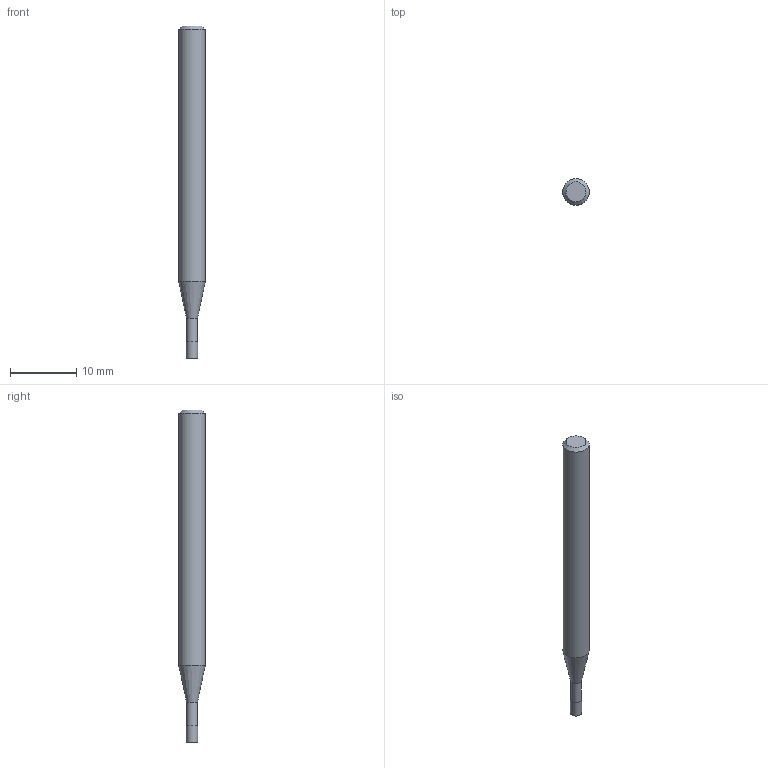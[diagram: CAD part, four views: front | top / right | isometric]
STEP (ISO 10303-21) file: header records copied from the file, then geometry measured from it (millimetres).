
FILE_DESCRIPTION((''),'2;1');
FILE_NAME('C:\Users\nsx150\AppData\Local\Temp\Mastercam 2021\17T8Q8S9EB\TEMP.step','2021-04-21T16:15:13',(''),(''),'STEP Write','Mastercam 2021 ... CNC Software, Inc.','');
FILE_SCHEMA(('AUTOMOTIVE_DESIGN'));
Length unit declared in the file: millimetre
Products named in the file (1): None
Bounding box: 4 x 4 x 50 mm (x, y, z)
Volume: 531.8 mm3; surface area: 580.3 mm2
Topology: 2 solids, 2 shells, 9 faces, 12 edges, 7 vertices
Faces by surface type: plane 4, cylinder 3, cone 2
Full cylindrical faces by diameter (mm): 1.65 x1, 1.7 x1, 4 x1
Entity records: 211 total; most frequent: DIRECTION 36, CARTESIAN_POINT 25, AXIS2_PLACEMENT_3D 18, ORIENTED_EDGE 14, EDGE_LOOP 14, STYLED_ITEM 12, ADVANCED_FACE 9, FACE_BOUND 8
